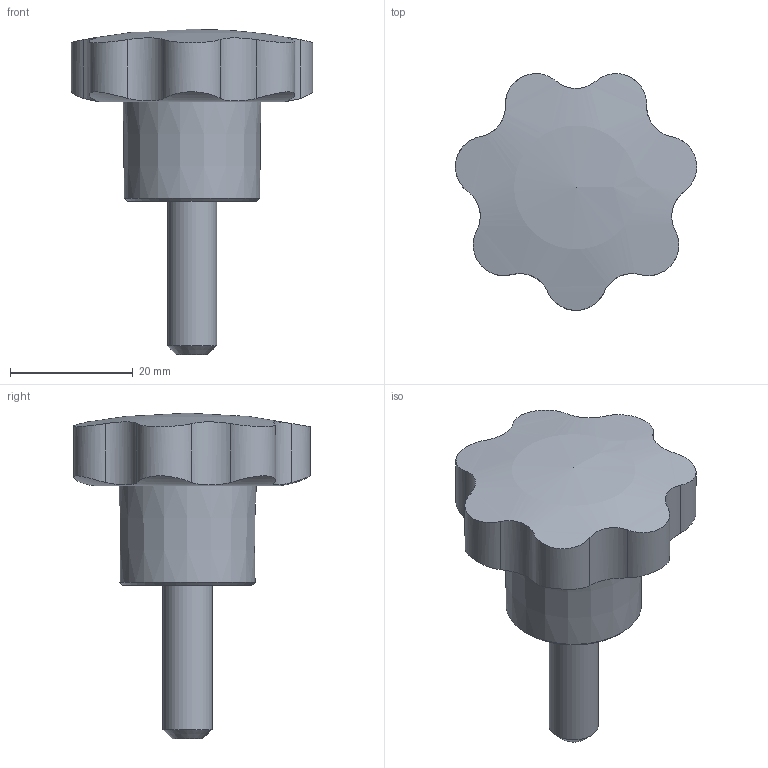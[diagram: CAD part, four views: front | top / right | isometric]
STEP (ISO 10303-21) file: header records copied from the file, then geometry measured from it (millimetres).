
FILE_DESCRIPTION( ('This file contains a STEP AP42 implementation' ,'as created by ZW3D STEP Interface translator.') ,'2;1' );
FILE_NAME( '7.C40.GZ.stp' ,'26 817.105857', (''), ('ZWCAD Software Co.'), 'Version 1.0', 'ZW3D to STEP translator', '' );
FILE_SCHEMA(('AP242_MANAGED_MODEL_BASED_3D_ENGINEERING_MIM_LF { 1 0 10303 442 1 1 4 }'));
Length unit declared in the file: millimetre
Products named in the file (1): 0
Bounding box: 39.24 x 38.51 x 53 mm (x, y, z)
Volume: 18674.7 mm3; surface area: 6695.5 mm2
Topology: 2 solids, 2 shells, 40 faces, 97 edges, 64 vertices
Faces by surface type: plane 19, cylinder 16, cone 3, sphere 1, torus 1
Full cylindrical faces by diameter (mm): 8 x2
Entity records: 1357 total; most frequent: CARTESIAN_POINT 402, ORIENTED_EDGE 192, DIRECTION 159, EDGE_CURVE 96, VERTEX_POINT 64, VECTOR 55, LINE 55, AXIS2_PLACEMENT_3D 52
